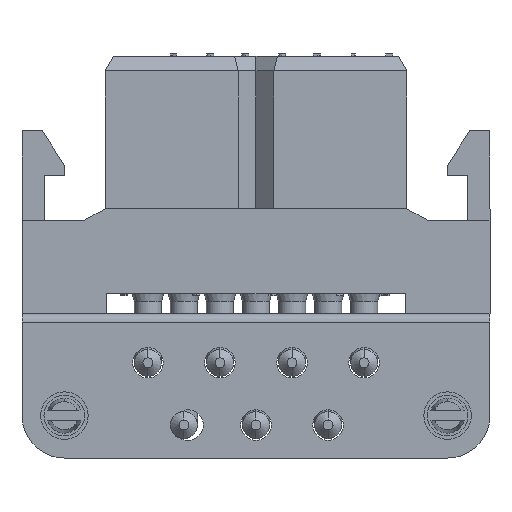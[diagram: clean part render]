
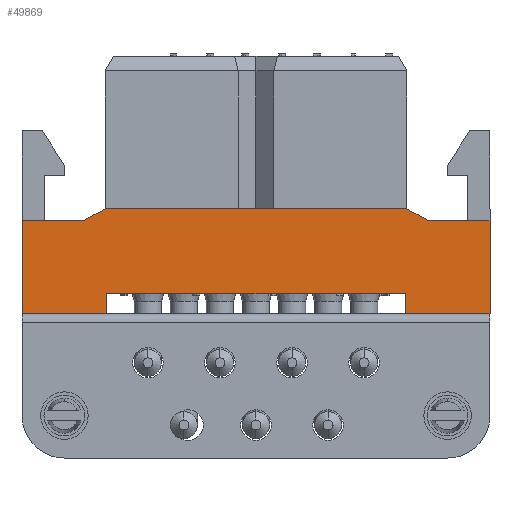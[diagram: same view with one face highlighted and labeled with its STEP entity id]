
A CAD part, front view. The second image highlights one B-rep face of the part: STEP entity #49869.
In plain terms, the highlighted planar face has unit normal (0, -1, 0).
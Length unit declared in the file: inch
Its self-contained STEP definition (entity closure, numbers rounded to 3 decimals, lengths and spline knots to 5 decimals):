
#298 = EDGE_CURVE ( 'NONE', #16730, #27263, #16572, .T. ) ;
#717 = DIRECTION ( 'NONE',  ( -1., 0., 0. ) ) ;
#890 = PLANE ( 'NONE',  #14670 ) ;
#1102 = CARTESIAN_POINT ( 'NONE',  ( -0.34646, -0.21654, -0.19685 ) ) ;
#1124 = ORIENTED_EDGE ( 'NONE', *, *, #18081, .F. ) ;
#1367 = CARTESIAN_POINT ( 'NONE',  ( 0.54331, -0.21654, -0.02756 ) ) ;
#1838 = LINE ( 'NONE', #22190, #31649 ) ;
#2214 = CARTESIAN_POINT ( 'NONE',  ( -0.54331, -0.21654, -0.24409 ) ) ;
#2269 = CARTESIAN_POINT ( 'NONE',  ( -0.34646, -0.21654, -0.24409 ) ) ;
#2384 = VERTEX_POINT ( 'NONE', #5196 ) ;
#3015 = ORIENTED_EDGE ( 'NONE', *, *, #48455, .F. ) ;
#4227 = LINE ( 'NONE', #2214, #41252 ) ;
#5196 = CARTESIAN_POINT ( 'NONE',  ( 0.35039, -0.21654, 0. ) ) ;
#5874 = DIRECTION ( 'NONE',  ( 0., -1., 0. ) ) ;
#6216 = CARTESIAN_POINT ( 'NONE',  ( -0.34646, -0.21654, -0.24409 ) ) ;
#6421 = ORIENTED_EDGE ( 'NONE', *, *, #50620, .F. ) ;
#6636 = CARTESIAN_POINT ( 'NONE',  ( -0.34646, -0.21654, -0.19685 ) ) ;
#7565 = VERTEX_POINT ( 'NONE', #29944 ) ;
#8586 = VERTEX_POINT ( 'NONE', #6216 ) ;
#8800 = CARTESIAN_POINT ( 'NONE',  ( 0.35039, -0.21654, 0. ) ) ;
#8832 = CARTESIAN_POINT ( 'NONE',  ( 0.39961, -0.21654, -0.02756 ) ) ;
#9280 = VECTOR ( 'NONE', #18288, 39.37008 ) ;
#9767 = ORIENTED_EDGE ( 'NONE', *, *, #18794, .F. ) ;
#9781 = CARTESIAN_POINT ( 'NONE',  ( -0.54331, -0.21654, -0.24409 ) ) ;
#9978 = LINE ( 'NONE', #18108, #41046 ) ;
#10202 = VERTEX_POINT ( 'NONE', #8832 ) ;
#11578 = LINE ( 'NONE', #45133, #51827 ) ;
#14055 = EDGE_CURVE ( 'NONE', #7565, #14235, #9978, .T. ) ;
#14235 = VERTEX_POINT ( 'NONE', #49049 ) ;
#14464 = DIRECTION ( 'NONE',  ( 1., 0., 0. ) ) ;
#14670 = AXIS2_PLACEMENT_3D ( 'NONE', #31039, #5874, #27029 ) ;
#14988 = DIRECTION ( 'NONE',  ( 0., 0., 1. ) ) ;
#15095 = LINE ( 'NONE', #19265, #23757 ) ;
#15596 = DIRECTION ( 'NONE',  ( 0., 0., -1. ) ) ;
#15805 = ORIENTED_EDGE ( 'NONE', *, *, #29277, .F. ) ;
#16222 = ORIENTED_EDGE ( 'NONE', *, *, #20901, .F. ) ;
#16572 = LINE ( 'NONE', #1102, #43675 ) ;
#16650 = LINE ( 'NONE', #52322, #19245 ) ;
#16730 = VERTEX_POINT ( 'NONE', #34614 ) ;
#17531 = FACE_OUTER_BOUND ( 'NONE', #39021, .T. ) ;
#17623 = VECTOR ( 'NONE', #24117, 39.37008 ) ;
#17899 = VERTEX_POINT ( 'NONE', #1367 ) ;
#18013 = CARTESIAN_POINT ( 'NONE',  ( 0.54331, -0.21654, -0.24409 ) ) ;
#18081 = EDGE_CURVE ( 'NONE', #27263, #8586, #22861, .T. ) ;
#18108 = CARTESIAN_POINT ( 'NONE',  ( -0.49213, -0.21654, -0.02756 ) ) ;
#18288 = DIRECTION ( 'NONE',  ( -1., 0., 0. ) ) ;
#18794 = EDGE_CURVE ( 'NONE', #52429, #16730, #16650, .T. ) ;
#19245 = VECTOR ( 'NONE', #30808, 39.37008 ) ;
#19265 = CARTESIAN_POINT ( 'NONE',  ( 0.49213, -0.21654, -0.02756 ) ) ;
#20164 = VECTOR ( 'NONE', #42093, 39.37008 ) ;
#20901 = EDGE_CURVE ( 'NONE', #17899, #30937, #11578, .T. ) ;
#21592 = CARTESIAN_POINT ( 'NONE',  ( -0.54331, -0.21654, -0.24409 ) ) ;
#22190 = CARTESIAN_POINT ( 'NONE',  ( 0.54331, -0.21654, -0.24409 ) ) ;
#22387 = ORIENTED_EDGE ( 'NONE', *, *, #14055, .F. ) ;
#22861 = LINE ( 'NONE', #2269, #20164 ) ;
#23757 = VECTOR ( 'NONE', #14464, 39.37008 ) ;
#24117 = DIRECTION ( 'NONE',  ( 0.873, 0., 0.489 ) ) ;
#24164 = CARTESIAN_POINT ( 'NONE',  ( -0.35039, -0.21654, 0. ) ) ;
#24465 = CARTESIAN_POINT ( 'NONE',  ( 0.34646, -0.21654, -0.24409 ) ) ;
#26573 = ORIENTED_EDGE ( 'NONE', *, *, #40086, .F. ) ;
#27029 = DIRECTION ( 'NONE',  ( 0., 0., -1. ) ) ;
#27263 = VERTEX_POINT ( 'NONE', #6636 ) ;
#28925 = LINE ( 'NONE', #41227, #17623 ) ;
#29079 = VECTOR ( 'NONE', #49598, 39.37008 ) ;
#29166 = LINE ( 'NONE', #9781, #9280 ) ;
#29277 = EDGE_CURVE ( 'NONE', #30937, #52429, #1838, .T. ) ;
#29944 = CARTESIAN_POINT ( 'NONE',  ( -0.54331, -0.21654, -0.02756 ) ) ;
#30529 = DIRECTION ( 'NONE',  ( 1., 0., 0. ) ) ;
#30808 = DIRECTION ( 'NONE',  ( 0., 0., 1. ) ) ;
#30937 = VERTEX_POINT ( 'NONE', #18013 ) ;
#31039 = CARTESIAN_POINT ( 'NONE',  ( 0., -0.21654, 0. ) ) ;
#31649 = VECTOR ( 'NONE', #47621, 39.37008 ) ;
#34614 = CARTESIAN_POINT ( 'NONE',  ( 0.34646, -0.21654, -0.19685 ) ) ;
#35629 = VECTOR ( 'NONE', #39124, 39.37008 ) ;
#36502 = ORIENTED_EDGE ( 'NONE', *, *, #54512, .F. ) ;
#36967 = LINE ( 'NONE', #8800, #35629 ) ;
#38131 = VERTEX_POINT ( 'NONE', #24164 ) ;
#39021 = EDGE_LOOP ( 'NONE', ( #16222, #36502, #51411, #26573, #3015, #22387, #6421, #48641, #1124, #41849, #9767, #15805 ) ) ;
#39124 = DIRECTION ( 'NONE',  ( 1., 0., 0. ) ) ;
#39266 = EDGE_CURVE ( 'NONE', #2384, #10202, #46841, .T. ) ;
#40086 = EDGE_CURVE ( 'NONE', #38131, #2384, #36967, .T. ) ;
#41046 = VECTOR ( 'NONE', #30529, 39.37008 ) ;
#41227 = CARTESIAN_POINT ( 'NONE',  ( -0.39961, -0.21654, -0.02756 ) ) ;
#41252 = VECTOR ( 'NONE', #14988, 39.37008 ) ;
#41285 = VERTEX_POINT ( 'NONE', #21592 ) ;
#41702 = CARTESIAN_POINT ( 'NONE',  ( 0.39961, -0.21654, -0.02756 ) ) ;
#41849 = ORIENTED_EDGE ( 'NONE', *, *, #298, .F. ) ;
#42093 = DIRECTION ( 'NONE',  ( 0., 0., -1. ) ) ;
#43675 = VECTOR ( 'NONE', #717, 39.37008 ) ;
#45133 = CARTESIAN_POINT ( 'NONE',  ( 0.54331, -0.21654, -0.24409 ) ) ;
#45552 = EDGE_CURVE ( 'NONE', #8586, #41285, #29166, .T. ) ;
#46841 = LINE ( 'NONE', #41702, #29079 ) ;
#47621 = DIRECTION ( 'NONE',  ( -1., 0., 0. ) ) ;
#48455 = EDGE_CURVE ( 'NONE', #14235, #38131, #28925, .T. ) ;
#48641 = ORIENTED_EDGE ( 'NONE', *, *, #45552, .F. ) ;
#49049 = CARTESIAN_POINT ( 'NONE',  ( -0.39961, -0.21654, -0.02756 ) ) ;
#49598 = DIRECTION ( 'NONE',  ( 0.873, 0., -0.489 ) ) ;
#49869 = ADVANCED_FACE ( 'NONE', ( #17531 ), #890, .T. ) ;
#50620 = EDGE_CURVE ( 'NONE', #41285, #7565, #4227, .T. ) ;
#51411 = ORIENTED_EDGE ( 'NONE', *, *, #39266, .F. ) ;
#51827 = VECTOR ( 'NONE', #15596, 39.37008 ) ;
#52322 = CARTESIAN_POINT ( 'NONE',  ( 0.34646, -0.21654, -0.24409 ) ) ;
#52429 = VERTEX_POINT ( 'NONE', #24465 ) ;
#54512 = EDGE_CURVE ( 'NONE', #10202, #17899, #15095, .T. ) ;
